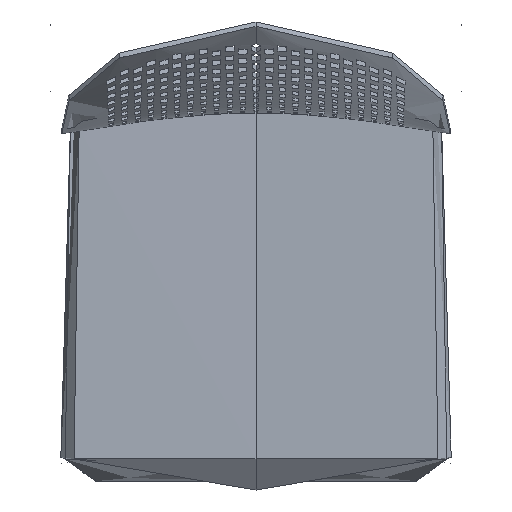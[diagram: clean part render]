
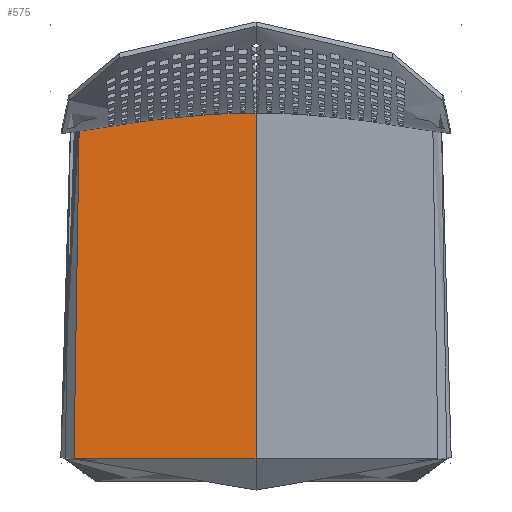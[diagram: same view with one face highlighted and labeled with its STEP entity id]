
A CAD part, top view. The second image highlights one B-rep face of the part: STEP entity #575.
In plain terms, the highlighted free-form (B-spline) face has degree [3, 3] with [4, 6] control points.
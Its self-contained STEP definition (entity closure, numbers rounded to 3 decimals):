
#575=ADVANCED_FACE('',(#1663),#20240,.T.);
#1663=FACE_OUTER_BOUND('',#2751,.T.);
#2751=EDGE_LOOP('',(#4403,#4404,#4405,#4406,#4407));
#4403=ORIENTED_EDGE('',*,*,#10748,.T.);
#4404=ORIENTED_EDGE('',*,*,#10736,.T.);
#4405=ORIENTED_EDGE('',*,*,#10737,.F.);
#4406=ORIENTED_EDGE('',*,*,#10747,.T.);
#4407=ORIENTED_EDGE('',*,*,#10755,.F.);
#10736=EDGE_CURVE('',#17144,#17146,#14030,.T.);
#10737=EDGE_CURVE('',#17145,#17146,#14031,.T.);
#10747=EDGE_CURVE('',#17145,#17152,#14041,.T.);
#10748=EDGE_CURVE('',#17154,#17144,#14042,.T.);
#10755=EDGE_CURVE('',#17154,#17152,#13878,.T.);
#13878=(
BOUNDED_CURVE()
B_SPLINE_CURVE(3,(#25620,#25621,#25622,#25623,#25624,#25625,#25626,#25627,
#25628,#25629,#25630,#25631,#25632,#25633,#25634,#25635,#25636,#25637,#25638,
#25639),.UNSPECIFIED.,.F.,.F.)
B_SPLINE_CURVE_WITH_KNOTS((4,3,3,1,1,1,1,1,1,1,3,4),(-0.392,
-0.39,6.301,10.816,15.904,21.689,
28.102,34.77,41.018,46.433,51.07,
56.446),.UNSPECIFIED.)
CURVE()
GEOMETRIC_REPRESENTATION_ITEM()
RATIONAL_B_SPLINE_CURVE((1.,1.,1.,1.,1.,1.,1.,1.,1.,1.,1.,
1.,1.,1.,1.,1.,1.,1.,1.,1.))
REPRESENTATION_ITEM('')
);
#14030=B_SPLINE_CURVE_WITH_KNOTS('',3,(#25384,#25385,#25386,#25387),
 .UNSPECIFIED.,.F.,.F.,(4,4),(0.,208.2),.UNSPECIFIED.);
#14031=B_SPLINE_CURVE_WITH_KNOTS('',3,(#25388,#25389,#25390,#25391,#25392,
#25393),.UNSPECIFIED.,.F.,.F.,(4,1,1,4),(-469.281,-336.575,
-192.091,-47.607),.UNSPECIFIED.);
#14041=B_SPLINE_CURVE_WITH_KNOTS('',3,(#25533,#25534,#25535,#25536),
 .UNSPECIFIED.,.F.,.F.,(4,4),(0.,169.177),.UNSPECIFIED.);
#14042=B_SPLINE_CURVE_WITH_KNOTS('',3,(#25537,#25538,#25539,#25540,#25541),
 .UNSPECIFIED.,.F.,.F.,(4,1,4),(235.672,614.063,616.504),
 .UNSPECIFIED.);
#17144=VERTEX_POINT('',#25354);
#17145=VERTEX_POINT('',#25355);
#17146=VERTEX_POINT('',#25356);
#17152=VERTEX_POINT('',#25362);
#17154=VERTEX_POINT('',#25364);
#20240=B_SPLINE_SURFACE_WITH_KNOTS('',3,3,((#23360,#23361,#23362,#23363,
#23364,#23365),(#23366,#23367,#23368,#23369,#23370,#23371),(#23372,#23373,
#23374,#23375,#23376,#23377),(#23378,#23379,#23380,#23381,#23382,#23383)),
 .UNSPECIFIED.,.F.,.F.,.F.,(4,4),(4,1,1,4),(0.,208.2),(47.607,
192.091,336.575,469.281),.UNSPECIFIED.);
#23360=CARTESIAN_POINT('',(-207.61,-200.8,469.081));
#23361=CARTESIAN_POINT('',(-206.89,-154.314,468.31));
#23362=CARTESIAN_POINT('',(-205.45,-61.344,466.768));
#23363=CARTESIAN_POINT('',(-203.349,74.323,464.518));
#23364=CARTESIAN_POINT('',(-201.968,163.504,463.038));
#23365=CARTESIAN_POINT('',(-201.307,206.2,462.33));
#23366=CARTESIAN_POINT('',(-138.406,-200.8,467.081));
#23367=CARTESIAN_POINT('',(-137.927,-164.428,466.478));
#23368=CARTESIAN_POINT('',(-136.967,-58.131,457.01));
#23369=CARTESIAN_POINT('',(-135.566,87.116,455.076));
#23370=CARTESIAN_POINT('',(-134.645,173.48,457.765));
#23371=CARTESIAN_POINT('',(-134.204,212.878,459.041));
#23372=CARTESIAN_POINT('',(-69.203,-200.8,466.081));
#23373=CARTESIAN_POINT('',(-68.963,-169.485,465.562));
#23374=CARTESIAN_POINT('',(-68.483,-56.525,452.131));
#23375=CARTESIAN_POINT('',(-67.783,93.513,450.355));
#23376=CARTESIAN_POINT('',(-67.323,178.468,455.129));
#23377=CARTESIAN_POINT('',(-67.102,216.217,457.396));
#23378=CARTESIAN_POINT('',(0.,-200.8,466.081));
#23379=CARTESIAN_POINT('',(0.,-169.485,465.562));
#23380=CARTESIAN_POINT('',(0.,-56.525,452.131));
#23381=CARTESIAN_POINT('',(0.,93.513,450.355));
#23382=CARTESIAN_POINT('',(0.,178.468,455.129));
#23383=CARTESIAN_POINT('',(0.,216.217,457.396));
#25354=CARTESIAN_POINT('',(-207.61,-200.8,469.081));
#25355=CARTESIAN_POINT('',(0.,216.217,457.396));
#25356=CARTESIAN_POINT('',(0.,-200.8,466.081));
#25362=CARTESIAN_POINT('',(-166.693,209.35,460.779));
#25364=CARTESIAN_POINT('',(-201.765,176.772,462.819));
#25384=CARTESIAN_POINT('',(-207.61,-200.8,469.081));
#25385=CARTESIAN_POINT('',(-138.406,-200.8,467.081));
#25386=CARTESIAN_POINT('',(-69.203,-200.8,466.081));
#25387=CARTESIAN_POINT('',(0.,-200.8,466.081));
#25388=CARTESIAN_POINT('',(0.,216.217,457.396));
#25389=CARTESIAN_POINT('',(0.,178.468,455.129));
#25390=CARTESIAN_POINT('',(0.,93.513,450.355));
#25391=CARTESIAN_POINT('',(0.,-56.525,452.131));
#25392=CARTESIAN_POINT('',(0.,-169.485,465.562));
#25393=CARTESIAN_POINT('',(0.,-200.8,466.081));
#25533=CARTESIAN_POINT('',(0.,216.217,457.396));
#25534=CARTESIAN_POINT('',(-55.652,216.219,457.396));
#25535=CARTESIAN_POINT('',(-111.239,213.917,458.528));
#25536=CARTESIAN_POINT('',(-166.693,209.35,460.779));
#25537=CARTESIAN_POINT('',(-201.765,176.772,462.819));
#25538=CARTESIAN_POINT('',(-203.697,51.693,464.897));
#25539=CARTESIAN_POINT('',(-205.651,-74.287,466.969));
#25540=CARTESIAN_POINT('',(-207.595,-199.785,469.083));
#25541=CARTESIAN_POINT('',(-207.61,-200.8,469.081));
#25620=CARTESIAN_POINT('',(-201.765,176.772,462.819));
#25621=CARTESIAN_POINT('',(-201.764,176.772,462.819));
#25622=CARTESIAN_POINT('',(-201.763,176.772,462.819));
#25623=CARTESIAN_POINT('',(-201.762,176.772,462.819));
#25624=CARTESIAN_POINT('',(-199.541,176.811,462.669));
#25625=CARTESIAN_POINT('',(-197.319,176.863,462.52));
#25626=CARTESIAN_POINT('',(-195.1,176.969,462.373));
#25627=CARTESIAN_POINT('',(-193.602,177.041,462.274));
#25628=CARTESIAN_POINT('',(-190.422,177.258,462.064));
#25629=CARTESIAN_POINT('',(-185.365,178.026,461.733));
#25630=CARTESIAN_POINT('',(-179.891,179.81,461.385));
#25631=CARTESIAN_POINT('',(-174.545,183.167,461.064));
#25632=CARTESIAN_POINT('',(-170.339,188.106,460.842));
#25633=CARTESIAN_POINT('',(-167.892,193.742,460.742));
#25634=CARTESIAN_POINT('',(-166.881,199.09,460.725));
#25635=CARTESIAN_POINT('',(-166.675,202.435,460.736));
#25636=CARTESIAN_POINT('',(-166.633,203.979,460.744));
#25637=CARTESIAN_POINT('',(-166.59,205.769,460.753));
#25638=CARTESIAN_POINT('',(-166.606,207.562,460.765));
#25639=CARTESIAN_POINT('',(-166.693,209.35,460.779));
